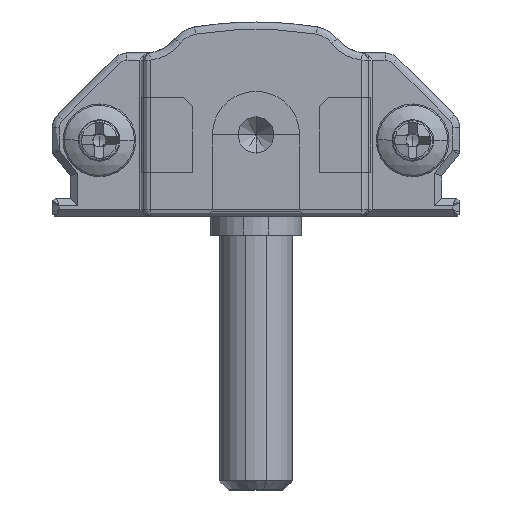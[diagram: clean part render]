
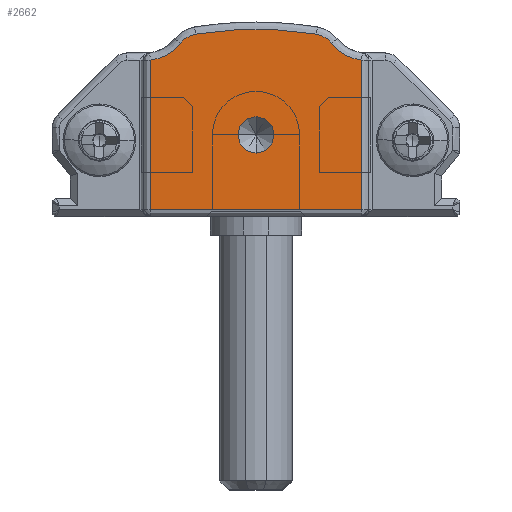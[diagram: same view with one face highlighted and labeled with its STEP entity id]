
A CAD part, front view. The second image highlights one B-rep face of the part: STEP entity #2662.
In plain terms, the highlighted planar face has unit normal (0, -1, 0).
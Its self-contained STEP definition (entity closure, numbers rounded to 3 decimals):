
#337 = EDGE_LOOP ( 'NONE', ( #26725, #26690 ) ) ;
#403 = CARTESIAN_POINT ( 'NONE',  ( 11.2, -15., 4.5 ) ) ;
#1323 = CARTESIAN_POINT ( 'NONE',  ( 22.15, -15., 3.606 ) ) ;
#1476 = ORIENTED_EDGE ( 'NONE', *, *, #23166, .T. ) ;
#2141 = ORIENTED_EDGE ( 'NONE', *, *, #29426, .T. ) ;
#2662 = ADVANCED_FACE ( 'NONE', ( #14074, #4196 ), #8854, .T. ) ;
#2951 = CARTESIAN_POINT ( 'NONE',  ( 11.2, -15., 5.5 ) ) ;
#3127 = AXIS2_PLACEMENT_3D ( 'NONE', #1323, #9030, #4034 ) ;
#3179 = EDGE_CURVE ( 'NONE', #14352, #11151, #6977, .T. ) ;
#3870 = CARTESIAN_POINT ( 'NONE',  ( 5.4, -15., 0.4 ) ) ;
#4034 = DIRECTION ( 'NONE',  ( 0., 0., -1. ) ) ;
#4196 = FACE_BOUND ( 'NONE', #337, .T. ) ;
#5177 = CIRCLE ( 'NONE', #28820, 2.4 ) ;
#5475 = DIRECTION ( 'NONE',  ( 0., 0., -1. ) ) ;
#5656 = CARTESIAN_POINT ( 'NONE',  ( 7.892, -15., 10.034 ) ) ;
#5882 = ORIENTED_EDGE ( 'NONE', *, *, #30200, .T. ) ;
#6068 = ORIENTED_EDGE ( 'NONE', *, *, #16873, .T. ) ;
#6189 = ORIENTED_EDGE ( 'NONE', *, *, #3179, .T. ) ;
#6602 = LINE ( 'NONE', #19021, #29597 ) ;
#6860 = CARTESIAN_POINT ( 'NONE',  ( 17., -15., 8.612 ) ) ;
#6977 = LINE ( 'NONE', #22161, #29475 ) ;
#7740 = DIRECTION ( 'NONE',  ( 0., 1., 0. ) ) ;
#8544 = DIRECTION ( 'NONE',  ( 0., -1., 0. ) ) ;
#8591 = VERTEX_POINT ( 'NONE', #33018 ) ;
#8854 = PLANE ( 'NONE',  #3127 ) ;
#9030 = DIRECTION ( 'NONE',  ( 0., -1., 0. ) ) ;
#10568 = AXIS2_PLACEMENT_3D ( 'NONE', #31948, #13945, #31634 ) ;
#10716 = CIRCLE ( 'NONE', #13365, 1.3 ) ;
#11088 = EDGE_CURVE ( 'NONE', #23090, #24768, #26423, .T. ) ;
#11151 = VERTEX_POINT ( 'NONE', #6860 ) ;
#11982 = CARTESIAN_POINT ( 'NONE',  ( 14.508, -15., 10.034 ) ) ;
#12010 = ORIENTED_EDGE ( 'NONE', *, *, #19127, .T. ) ;
#12133 = VECTOR ( 'NONE', #28275, 1000. ) ;
#12602 = LINE ( 'NONE', #33146, #12133 ) ;
#13365 = AXIS2_PLACEMENT_3D ( 'NONE', #27997, #31022, #5475 ) ;
#13512 = AXIS2_PLACEMENT_3D ( 'NONE', #403, #18353, #28632 ) ;
#13860 = VERTEX_POINT ( 'NONE', #28990 ) ;
#13945 = DIRECTION ( 'NONE',  ( 0., -1., 0. ) ) ;
#14074 = FACE_OUTER_BOUND ( 'NONE', #20264, .T. ) ;
#14079 = DIRECTION ( 'NONE',  ( 0., 0., -1. ) ) ;
#14283 = CIRCLE ( 'NONE', #10568, 1. ) ;
#14352 = VERTEX_POINT ( 'NONE', #28071 ) ;
#14873 = DIRECTION ( 'NONE',  ( 0., 0., 1. ) ) ;
#15152 = DIRECTION ( 'NONE',  ( 0., 0., -1. ) ) ;
#15857 = AXIS2_PLACEMENT_3D ( 'NONE', #21862, #27219, #30227 ) ;
#16864 = EDGE_CURVE ( 'NONE', #27594, #8591, #5177, .T. ) ;
#16873 = EDGE_CURVE ( 'NONE', #8591, #23408, #12602, .T. ) ;
#18353 = DIRECTION ( 'NONE',  ( 0., -1., 0. ) ) ;
#19021 = CARTESIAN_POINT ( 'NONE',  ( 17., -15., 0.4 ) ) ;
#19127 = EDGE_CURVE ( 'NONE', #31172, #27594, #10716, .T. ) ;
#19140 = CARTESIAN_POINT ( 'NONE',  ( 17.238, -15., 11. ) ) ;
#19634 = DIRECTION ( 'NONE',  ( 0., 1., 0. ) ) ;
#20264 = EDGE_LOOP ( 'NONE', ( #6189, #27289, #5882, #2141, #12010, #29801, #6068, #1476 ) ) ;
#21862 = CARTESIAN_POINT ( 'NONE',  ( 11.2, -15., -10.376 ) ) ;
#22161 = CARTESIAN_POINT ( 'NONE',  ( 17., -15., 8.612 ) ) ;
#22559 = DIRECTION ( 'NONE',  ( 1., 0., 0. ) ) ;
#23090 = VERTEX_POINT ( 'NONE', #24372 ) ;
#23166 = EDGE_CURVE ( 'NONE', #23408, #14352, #6602, .T. ) ;
#23408 = VERTEX_POINT ( 'NONE', #3870 ) ;
#24372 = CARTESIAN_POINT ( 'NONE',  ( 11.2, -15., 3.5 ) ) ;
#24469 = CIRCLE ( 'NONE', #15857, 20.676 ) ;
#24768 = VERTEX_POINT ( 'NONE', #2951 ) ;
#26423 = CIRCLE ( 'NONE', #13512, 1. ) ;
#26681 = EDGE_CURVE ( 'NONE', #11151, #13860, #28262, .T. ) ;
#26690 = ORIENTED_EDGE ( 'NONE', *, *, #30974, .F. ) ;
#26725 = ORIENTED_EDGE ( 'NONE', *, *, #11088, .F. ) ;
#26882 = CARTESIAN_POINT ( 'NONE',  ( 14.3, -15., 8.75 ) ) ;
#27192 = AXIS2_PLACEMENT_3D ( 'NONE', #19140, #19634, #27571 ) ;
#27219 = DIRECTION ( 'NONE',  ( 0., -1., 0. ) ) ;
#27225 = CIRCLE ( 'NONE', #29884, 1.3 ) ;
#27289 = ORIENTED_EDGE ( 'NONE', *, *, #26681, .T. ) ;
#27571 = DIRECTION ( 'NONE',  ( 0., 0., -1. ) ) ;
#27594 = VERTEX_POINT ( 'NONE', #31430 ) ;
#27944 = CARTESIAN_POINT ( 'NONE',  ( 5.162, -15., 11. ) ) ;
#27997 = CARTESIAN_POINT ( 'NONE',  ( 8.1, -15., 8.75 ) ) ;
#28071 = CARTESIAN_POINT ( 'NONE',  ( 17., -15., 0.4 ) ) ;
#28262 = CIRCLE ( 'NONE', #27192, 2.4 ) ;
#28275 = DIRECTION ( 'NONE',  ( 0., 0., -1. ) ) ;
#28632 = DIRECTION ( 'NONE',  ( 0., 0., -1. ) ) ;
#28820 = AXIS2_PLACEMENT_3D ( 'NONE', #27944, #7740, #15152 ) ;
#28990 = CARTESIAN_POINT ( 'NONE',  ( 15.332, -15., 9.541 ) ) ;
#29426 = EDGE_CURVE ( 'NONE', #30873, #31172, #24469, .T. ) ;
#29475 = VECTOR ( 'NONE', #14873, 1000. ) ;
#29597 = VECTOR ( 'NONE', #22559, 1000. ) ;
#29801 = ORIENTED_EDGE ( 'NONE', *, *, #16864, .T. ) ;
#29884 = AXIS2_PLACEMENT_3D ( 'NONE', #26882, #8544, #14079 ) ;
#30200 = EDGE_CURVE ( 'NONE', #13860, #30873, #27225, .T. ) ;
#30227 = DIRECTION ( 'NONE',  ( 0., 0., -1. ) ) ;
#30873 = VERTEX_POINT ( 'NONE', #11982 ) ;
#30974 = EDGE_CURVE ( 'NONE', #24768, #23090, #14283, .T. ) ;
#31022 = DIRECTION ( 'NONE',  ( 0., -1., 0. ) ) ;
#31172 = VERTEX_POINT ( 'NONE', #5656 ) ;
#31430 = CARTESIAN_POINT ( 'NONE',  ( 7.068, -15., 9.541 ) ) ;
#31634 = DIRECTION ( 'NONE',  ( 0., 0., -1. ) ) ;
#31948 = CARTESIAN_POINT ( 'NONE',  ( 11.2, -15., 4.5 ) ) ;
#33018 = CARTESIAN_POINT ( 'NONE',  ( 5.4, -15., 8.612 ) ) ;
#33146 = CARTESIAN_POINT ( 'NONE',  ( 5.4, -15., 0.4 ) ) ;
